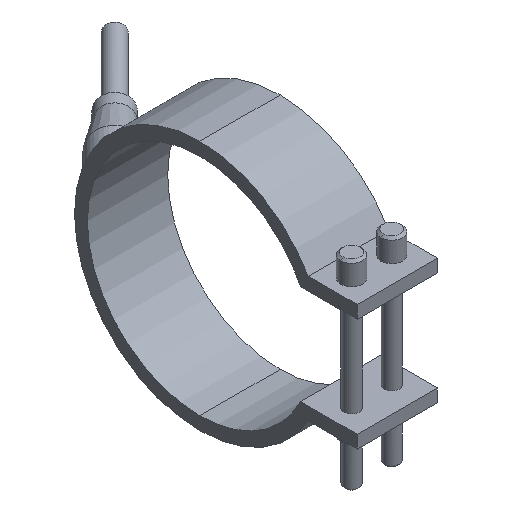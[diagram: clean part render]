
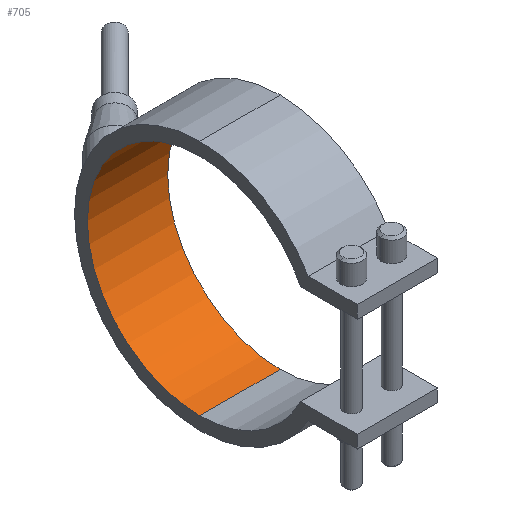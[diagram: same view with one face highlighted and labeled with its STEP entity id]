
A CAD part, isometric view. The second image highlights one B-rep face of the part: STEP entity #705.
In plain terms, the highlighted cylindrical face has radius 35 mm (diameter 70 mm), a partial arc.
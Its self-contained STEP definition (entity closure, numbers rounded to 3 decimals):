
#375=CARTESIAN_POINT('Vertex',(12.5,0.,35.)) ;
#380=CARTESIAN_POINT('Axis2P3D Location',(12.5,0.,0.)) ;
#384=CARTESIAN_POINT('Vertex',(12.5,0.,-35.)) ;
#491=CARTESIAN_POINT('Vertex',(-12.5,0.,-35.)) ;
#494=CARTESIAN_POINT('Axis2P3D Location',(-12.5,0.,0.)) ;
#498=CARTESIAN_POINT('Vertex',(-12.5,0.,35.)) ;
#677=CARTESIAN_POINT('Line Origine',(12.5,0.,35.)) ;
#689=CARTESIAN_POINT('Axis2P3D Location',(12.5,0.,0.)) ;
#694=CARTESIAN_POINT('Line Origine',(12.5,0.,-35.)) ;
#381=DIRECTION('Axis2P3D Direction',(1.,0.,0.)) ;
#495=DIRECTION('Axis2P3D Direction',(1.,0.,0.)) ;
#678=DIRECTION('Vector Direction',(1.,0.,0.)) ;
#690=DIRECTION('Axis2P3D Direction',(1.,0.,-0.)) ;
#691=DIRECTION('Axis2P3D XDirection',(0.,0.,-1.)) ;
#695=DIRECTION('Vector Direction',(1.,0.,0.)) ;
#382=AXIS2_PLACEMENT_3D('Circle Axis2P3D',#380,#381,$) ;
#496=AXIS2_PLACEMENT_3D('Circle Axis2P3D',#494,#495,$) ;
#692=AXIS2_PLACEMENT_3D('Cylinder Axis2P3D',#689,#690,#691) ;
#700=ORIENTED_EDGE('',*,*,#386,.T.) ;
#701=ORIENTED_EDGE('',*,*,#681,.T.) ;
#702=ORIENTED_EDGE('',*,*,#500,.F.) ;
#703=ORIENTED_EDGE('',*,*,#698,.T.) ;
#679=VECTOR('Line Direction',#678,1.) ;
#696=VECTOR('Line Direction',#695,1.) ;
#705=ADVANCED_FACE('29070025',(#704),#693,.F.) ;
#383=CIRCLE('generated circle',#382,35.) ;
#497=CIRCLE('generated circle',#496,35.) ;
#693=CYLINDRICAL_SURFACE('generated cylinder',#692,35.) ;
#386=EDGE_CURVE('',#385,#376,#383,.T.) ;
#500=EDGE_CURVE('',#492,#499,#497,.T.) ;
#681=EDGE_CURVE('',#376,#499,#680,.F.) ;
#698=EDGE_CURVE('',#492,#385,#697,.T.) ;
#699=EDGE_LOOP('',(#700,#701,#702,#703)) ;
#704=FACE_OUTER_BOUND('',#699,.T.) ;
#680=LINE('Line',#677,#679) ;
#697=LINE('Line',#694,#696) ;
#376=VERTEX_POINT('',#375) ;
#385=VERTEX_POINT('',#384) ;
#492=VERTEX_POINT('',#491) ;
#499=VERTEX_POINT('',#498) ;
